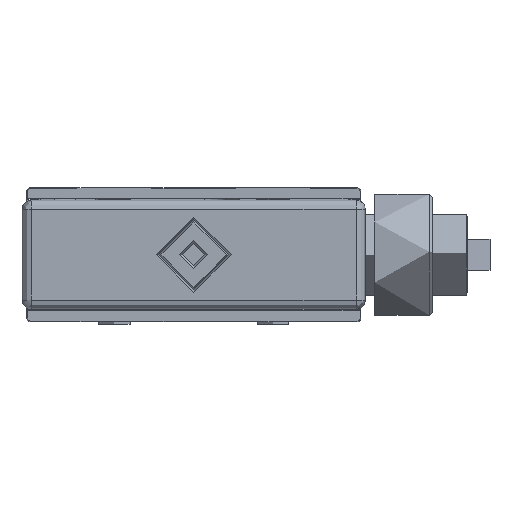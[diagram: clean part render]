
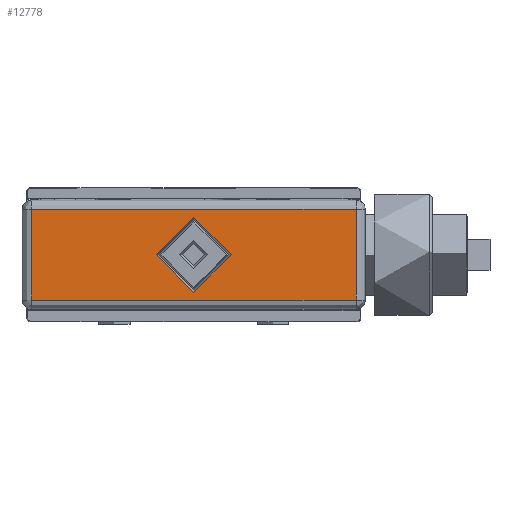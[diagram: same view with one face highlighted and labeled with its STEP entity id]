
A CAD part, front view. The second image highlights one B-rep face of the part: STEP entity #12778.
In plain terms, the highlighted planar face has unit normal (0, -1, 0).
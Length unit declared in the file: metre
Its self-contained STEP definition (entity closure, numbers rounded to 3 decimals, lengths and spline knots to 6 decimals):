
#12391=CARTESIAN_POINT('',(-0.042511,-0.033251,0.118941));
#12392=VERTEX_POINT('',#12391);
#12419=CARTESIAN_POINT('',(-0.042511,-0.033251,0.063741));
#12420=DIRECTION('',(0.,0.,1.));
#12421=VECTOR('',#12420,1.);
#12422=LINE('',#12419,#12421);
#12423=CARTESIAN_POINT('',(-0.042511,-0.033251,0.133441));
#12424=VERTEX_POINT('',#12423);
#12425=EDGE_CURVE('',#12392,#12424,#12422,.T.);
#12496=CARTESIAN_POINT('',(0.009489,-0.033251,0.118941));
#12497=VERTEX_POINT('',#12496);
#12515=CARTESIAN_POINT('',(0.009489,-0.033251,0.133441));
#12516=VERTEX_POINT('',#12515);
#12519=CARTESIAN_POINT('',(0.009489,-0.033251,0.063741));
#12520=DIRECTION('',(0.,0.,-1.));
#12521=VECTOR('',#12520,1.);
#12522=LINE('',#12519,#12521);
#12523=EDGE_CURVE('',#12516,#12497,#12522,.T.);
#12582=CARTESIAN_POINT('',(-0.044011,-0.033251,0.133441));
#12583=DIRECTION('',(1.,0.,0.));
#12584=VECTOR('',#12583,1.);
#12585=LINE('',#12582,#12584);
#12586=EDGE_CURVE('',#12424,#12516,#12585,.T.);
#12652=CARTESIAN_POINT('',(-0.044011,-0.033251,0.063741));
#12653=DIRECTION('',(0.,1.,0.));
#12654=DIRECTION('',(0.,0.,1.));
#12655=AXIS2_PLACEMENT_3D('',#12652,#12653,#12654);
#12656=PLANE('',#12655);
#12744=CARTESIAN_POINT('',(-0.016511,-0.033251,0.126191));
#12745=DIRECTION('',(0.,-1.,0.));
#12746=DIRECTION('',(0.,0.,-1.));
#12747=AXIS2_PLACEMENT_3D('',#12744,#12745,#12746);
#12748=CIRCLE('',#12747,0.006);
#12749=CARTESIAN_POINT('',(-0.016511,-0.033251,0.132191));
#12750=VERTEX_POINT('',#12749);
#12751=EDGE_CURVE('',#12750,#12750,#12748,.T.);
#12764=ORIENTED_EDGE('',*,*,#12751,.F.);
#12765=EDGE_LOOP('',(#12764));
#12766=FACE_BOUND('',#12765,.T.);
#12767=ORIENTED_EDGE('',*,*,#12586,.F.);
#12768=ORIENTED_EDGE('',*,*,#12425,.F.);
#12769=CARTESIAN_POINT('',(-0.044011,-0.033251,0.118941));
#12770=DIRECTION('',(1.,0.,0.));
#12771=VECTOR('',#12770,1.);
#12772=LINE('',#12769,#12771);
#12773=EDGE_CURVE('',#12392,#12497,#12772,.T.);
#12774=ORIENTED_EDGE('',*,*,#12773,.T.);
#12775=ORIENTED_EDGE('',*,*,#12523,.F.);
#12776=EDGE_LOOP('',(#12767,#12768,#12774,#12775));
#12777=FACE_BOUND('',#12776,.T.);
#12778=ADVANCED_FACE('',(#12766,#12777),#12656,.F.);
